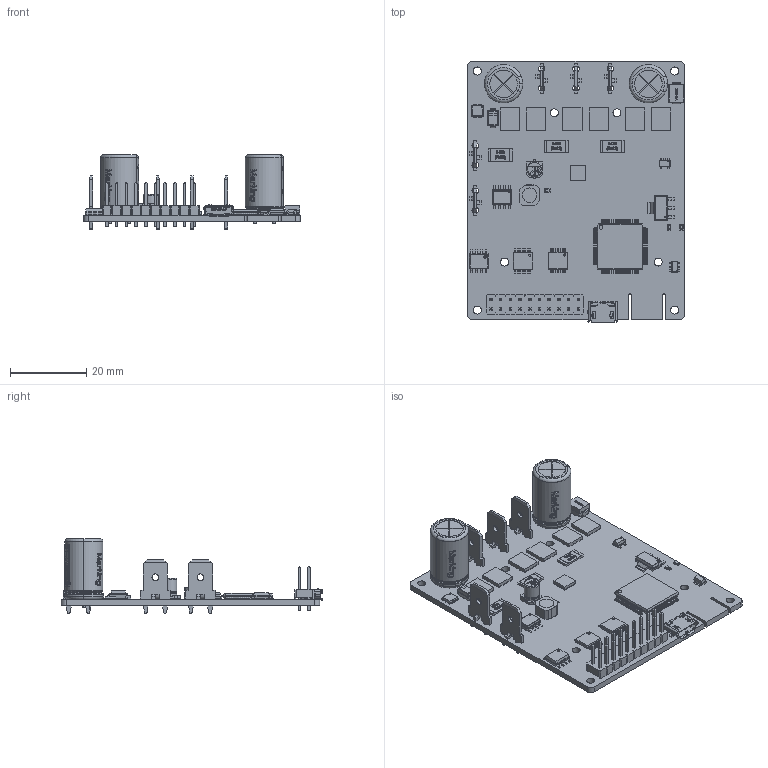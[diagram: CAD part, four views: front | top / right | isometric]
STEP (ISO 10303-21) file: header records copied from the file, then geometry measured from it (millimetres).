
FILE_DESCRIPTION(('Open CASCADE Model'),'2;1');
FILE_NAME('Open CASCADE Shape Model','2023-07-07T03:33:16',('Author'),( 'Open CASCADE'),'Open CASCADE STEP processor 7.5','Open CASCADE 7.5' ,'Unknown');
FILE_SCHEMA(('AUTOMOTIVE_DESIGN { 1 0 10303 214 1 1 1 1 }'));
Length unit declared in the file: millimetre
Products named in the file (116): PCB; Board; Open CASCADE STEP translator 7.5 1.1.1; E3; LED 0603 GREEN; Pocket002; Pad004; Fillet; Pocket001; Pad; Designator3; CAP_220uF_63V; Designator2; RS3; 2512; U10; User Library-LQFP80-2; case; pin; circle; C75; 4x5.5x1; capicitor_4x5.5x1; Base_Φ4Capacitor; D11; SS110; U13; LMR36510FADDAR; U12; 5179863712; Body; PinsArrayL; PinsArrayR; U11; 5179866592; PinsArrayLR; U6; LSF0204DPWR; U5; Q7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
Assembly tree (229 placements, depth 5):
  PCB
    Board
      Open CASCADE STEP translator 7.5 1.1.1
    E3
      LED 0603 GREEN
        Pocket002
        Pad004
        Fillet
        Pocket001
        Pad
    Designator3
      CAP_220uF_63V
    Designator2
      CAP_220uF_63V
    RS3
      2512
    U10
      User Library-LQFP80-2
        case
        pin  x80
        circle
    C75
      4x5.5x1
        capicitor_4x5.5x1
        Base_Φ4Capacitor
    D11
      SS110
    U13
      LMR36510FADDAR
    U12
      5179863712
        Body
        PinsArrayL
        PinsArrayR
    U11
      5179866592
        Body
        PinsArrayLR
    U6
      LSF0204DPWR
    U5
      LSF0204DPWR
    Q7
      User Library-WDFN8-2
    E1
      LED 0603 GREEN
        Pocket002
        Pad004
        Fillet
        Pocket001
        Pad
    E2
      LED 0603 GREEN
        Pocket002
        Pad004
        Fillet
        Pocket001
        Pad
    D10
      User Library-DO-214AA(SMB)-1
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Bounding box: 56.82 x 68.51 x 19.59 mm (x, y, z)
Volume: 9964.3 mm3; surface area: 16907.2 mm2
Topology: 266 solids, 897 shells, 6772 faces, 19643 edges, 14198 vertices
Faces by surface type: plane 4420, cylinder 1248, bspline 983, torus 83, sphere 20, extrusion 16, cone 2
Full cylindrical faces by diameter (mm): 0.194 x1, 0.2 x1, 0.438 x1, 0.5 x1, 0.58 x1, 0.9 x30, 0.98 x1, 1.7 x10, 2.1 x8, 2.42 x1, 2.5 x1, 2.8 x1, 3.56 x1, 3.9 x1, 4 x1
Entity records: 156116 total; most frequent: CARTESIAN_POINT 48273, ORIENTED_EDGE 19098, DIRECTION 18575, EDGE_CURVE 11320, VERTEX_POINT 8686, VECTOR 8033, LINE 8017, AXIS2_PLACEMENT_3D 5271
